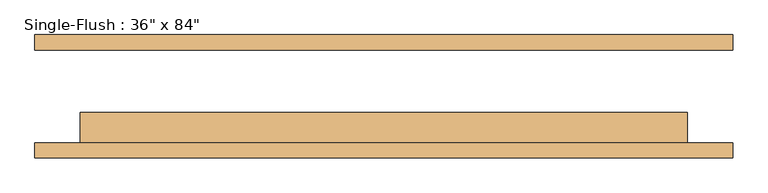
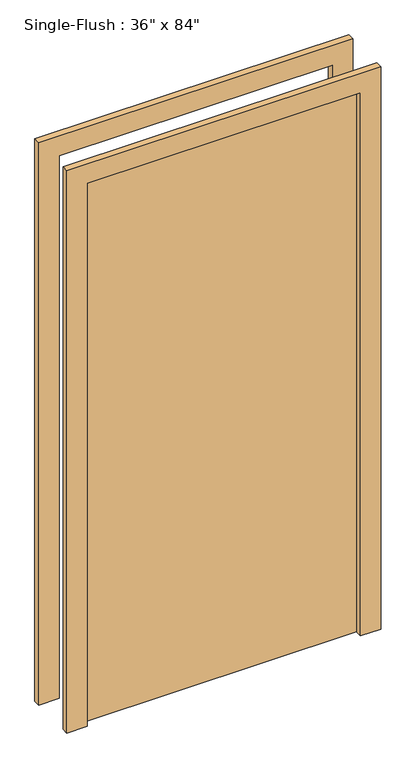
"""IFC4 building model written with IfcOpenShell, lengths in millimetres: door geometry."""

from ifc_helpers import new_model, si_unit, frame, origin, origin_with_axes, place, context, project, spatial, polyline, outline, extrude, source, transform, mapped, element, save


def door_fe0b3fde(model_context):
    return source(origin(), model_context, "Body", "SweptSolid", [
        extrude(outline(polyline([(2209.8, -584.2), (0.0, -584.2), (0.0, -508.0), (2133.6, -508.0), (2133.6, 508.0), (0.0, 508.0), (0.0, 584.2), (2209.8, 584.2), (2209.8, -584.2)])), frame((0.0, -103.1875, 0.0), z_axis=(0.0, 1.0, 0.0), x_axis=(0.0, 0.0, 1.0)), (0.0, 0.0, 1.0), 25.4),
        extrude(outline(polyline([(2209.8, 584.2), (2209.8, -584.2), (0.0, -584.2), (0.0, -508.0), (2133.6, -508.0), (2133.6, 508.0), (0.0, 508.0), (0.0, 584.2), (2209.8, 584.2)])), frame((0.0, 77.7875, 0.0), z_axis=(0.0, 1.0, 0.0), x_axis=(0.0, 0.0, 1.0)), (0.0, 0.0, 1.0), 25.4),
        extrude(outline(polyline([(508.0, -26.9875), (508.0, -77.7875), (-508.0, -77.7875), (-508.0, -26.9875), (508.0, -26.9875)])), origin_with_axes(), (0.0, 0.0, 1.0), 2133.6),
    ])


if __name__ == "__main__":
    model = new_model("IFC4")
    model_context = context("Model", 3, world=origin())
    ifc_project = project(units=[si_unit("LENGTHUNIT", "METRE", prefix="MILLI")], contexts=[model_context])
    site = spatial("IfcSite", under=ifc_project)
    building = spatial("IfcBuilding", under=site)
    placement = place(None, origin())
    door_shape = door_fe0b3fde(model_context)
    element("IfcDoor", 1, ObjectType="Single-Flush : 36\" x 84\"", at=placement, inside=building, context=model_context, shape_type="MappedRepresentation", body=[
        mapped(door_shape, transform((0.0, 0.0, 0.0), x_axis=(1.0, 0.0, 0.0), y_axis=(0.0, 1.0, 0.0), z_axis=(0.0, 0.0, 1.0))),
    ])
    save(model, "model.ifc")
